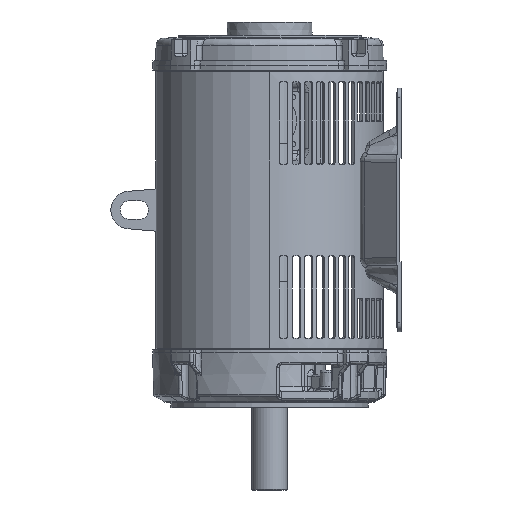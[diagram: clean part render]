
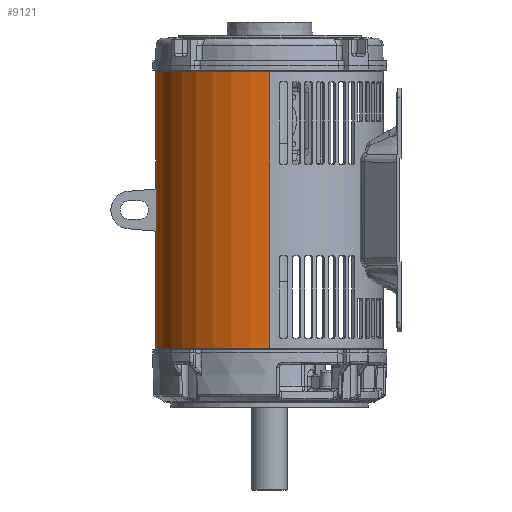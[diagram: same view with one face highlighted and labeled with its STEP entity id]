
A CAD part, left-side view. The second image highlights one B-rep face of the part: STEP entity #9121.
In plain terms, the highlighted cylindrical face has radius 153.805 mm (diameter 307.609 mm), a partial arc.
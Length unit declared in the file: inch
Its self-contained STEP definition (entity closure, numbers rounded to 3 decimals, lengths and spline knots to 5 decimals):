
#2386=CARTESIAN_POINT('',(0.,0.,7.34222));
#2387=DIRECTION('',(0.,0.,1.));
#2388=DIRECTION('',(1.,0.,0.));
#2389=AXIS2_PLACEMENT_3D('',#2386,#2387,#2388);
#2391=CARTESIAN_POINT('',(0.,0.,7.34222));
#2392=DIRECTION('',(0.,0.,1.));
#2393=DIRECTION('',(0.,1.,0.));
#2394=AXIS2_PLACEMENT_3D('',#2391,#2392,#2393);
#2396=CARTESIAN_POINT('',(-5.88146,1.44053,
-2.61528));
#2397=CARTESIAN_POINT('',(-5.89298,1.39349,
-2.62329));
#2398=CARTESIAN_POINT('',(-5.91483,1.2994,
-2.63957));
#2399=CARTESIAN_POINT('',(-5.94405,1.15835,
-2.66418));
#2400=CARTESIAN_POINT('',(-5.96984,1.01712,
-2.68844));
#2401=CARTESIAN_POINT('',(-5.99223,0.87557,
-2.71176));
#2402=CARTESIAN_POINT('',(-6.01128,0.73349,-2.73348));
#2403=CARTESIAN_POINT('',(-6.02702,0.59046,
-2.75293));
#2404=CARTESIAN_POINT('',(-6.03943,0.44608,
-2.76939));
#2405=CARTESIAN_POINT('',(-6.04847,0.2999,
-2.78205));
#2406=CARTESIAN_POINT('',(-6.05402,0.15158,
-2.79015));
#2407=CARTESIAN_POINT('',(-6.0553,0.0508,
-2.79206));
#2408=CARTESIAN_POINT('',(-6.0553,0.,
-2.79206));
#2410=CARTESIAN_POINT('',(-5.66307,2.1439,
-3.2495));
#2411=CARTESIAN_POINT('',(-5.66308,2.14389,
-3.20259));
#2412=CARTESIAN_POINT('',(-5.66654,2.13477,
-3.11092));
#2413=CARTESIAN_POINT('',(-5.68239,2.09243,
-2.97528));
#2414=CARTESIAN_POINT('',(-5.70699,2.02468,
-2.85532));
#2415=CARTESIAN_POINT('',(-5.73851,1.9339,
-2.75348));
#2416=CARTESIAN_POINT('',(-5.77427,1.82465,
-2.67565));
#2417=CARTESIAN_POINT('',(-5.81155,1.70252,
-2.62475));
#2418=CARTESIAN_POINT('',(-5.84856,1.57075,
-2.60276));
#2419=CARTESIAN_POINT('',(-5.87078,1.48415,
-2.60786));
#2420=CARTESIAN_POINT('',(-5.88146,1.44053,
-2.61528));
#2422=DIRECTION('',(0.,0.,1.));
#2423=VECTOR('',#2422,3.);
#2424=CARTESIAN_POINT('',(-5.66307,2.1439,
-6.2495));
#2425=LINE('',#2424,#2423);
#2426=CARTESIAN_POINT('',(-5.88146,1.44053,
-6.88372));
#2427=CARTESIAN_POINT('',(-5.87068,1.48454,
-6.8912));
#2428=CARTESIAN_POINT('',(-5.8483,1.5717,
-6.89619));
#2429=CARTESIAN_POINT('',(-5.81142,1.70294,
-6.87409));
#2430=CARTESIAN_POINT('',(-5.77418,1.82494,
-6.8232));
#2431=CARTESIAN_POINT('',(-5.73847,1.93401,
-6.74536));
#2432=CARTESIAN_POINT('',(-5.70707,2.02443,
-6.64402));
#2433=CARTESIAN_POINT('',(-5.68242,2.09233,
-6.5239));
#2434=CARTESIAN_POINT('',(-5.66662,2.13456,
-6.389));
#2435=CARTESIAN_POINT('',(-5.66308,2.1439,
-6.2968));
#2436=CARTESIAN_POINT('',(-5.66307,2.1439,
-6.2495));
#2438=CARTESIAN_POINT('',(-6.0553,0.,
-6.70694));
#2439=CARTESIAN_POINT('',(-6.0553,0.05085,
-6.70694));
#2440=CARTESIAN_POINT('',(-6.05402,0.15171,
-6.70885));
#2441=CARTESIAN_POINT('',(-6.04846,0.30008,
-6.71696));
#2442=CARTESIAN_POINT('',(-6.03942,0.44629,
-6.72963));
#2443=CARTESIAN_POINT('',(-6.027,0.59067,
-6.74609));
#2444=CARTESIAN_POINT('',(-6.01126,0.73367,
-6.76555));
#2445=CARTESIAN_POINT('',(-5.99221,0.87573,
-6.78727));
#2446=CARTESIAN_POINT('',(-5.96981,1.01727,
-6.81058));
#2447=CARTESIAN_POINT('',(-5.94403,1.15849,
-6.83484));
#2448=CARTESIAN_POINT('',(-5.9148,1.2995,
-6.85945));
#2449=CARTESIAN_POINT('',(-5.89297,1.39352,
-6.87572));
#2450=CARTESIAN_POINT('',(-5.88146,1.44053,
-6.88372));
#2452=CARTESIAN_POINT('',(0.,0.,-7.34322));
#2453=DIRECTION('',(0.,0.,1.));
#2454=DIRECTION('',(0.,1.,0.));
#2455=AXIS2_PLACEMENT_3D('',#2452,#2453,#2454);
#2457=CARTESIAN_POINT('',(0.,0.,-7.34322));
#2458=DIRECTION('',(0.,0.,1.));
#2459=DIRECTION('',(1.,0.,0.));
#2460=AXIS2_PLACEMENT_3D('',#2457,#2458,#2459);
#2462=DIRECTION('',(0.,0.,1.));
#2463=VECTOR('',#2462,14.68545);
#2464=CARTESIAN_POINT('',(6.0553,0.,-7.34322));
#2465=LINE('',#2464,#2463);
#2486=DIRECTION('',(0.,0.,1.));
#2487=VECTOR('',#2486,0.63628);
#2488=CARTESIAN_POINT('',(-6.0553,0.,-7.34322));
#2489=LINE('',#2488,#2487);
#2498=CARTESIAN_POINT('',(-6.0553,0.,
-6.70694));
#2538=DIRECTION('',(0.,0.,1.));
#2539=VECTOR('',#2538,10.13428);
#2540=CARTESIAN_POINT('',(-6.0553,0.,
-2.79206));
#2541=LINE('',#2540,#2539);
#6965=CARTESIAN_POINT('',(6.0553,0.,7.34222));
#6966=CARTESIAN_POINT('',(0.,6.0553,7.34222));
#6967=VERTEX_POINT('',#6965);
#6968=VERTEX_POINT('',#6966);
#6969=CARTESIAN_POINT('',(-6.0553,0.,7.34222));
#6970=VERTEX_POINT('',#6969);
#6975=CARTESIAN_POINT('',(6.0553,0.,-7.34322));
#6976=VERTEX_POINT('',#6975);
#6999=CARTESIAN_POINT('',(0.,6.0553,-7.34322));
#7000=VERTEX_POINT('',#6999);
#7001=CARTESIAN_POINT('',(-6.0553,0.,-7.34322));
#7002=VERTEX_POINT('',#7001);
#7041=CARTESIAN_POINT('',(-5.66307,2.1439,
-6.2495));
#7042=CARTESIAN_POINT('',(-5.66307,2.1439,
-3.2495));
#7043=VERTEX_POINT('',#7041);
#7044=VERTEX_POINT('',#7042);
#7046=VERTEX_POINT('',#2420);
#7048=VERTEX_POINT('',#2408);
#7060=VERTEX_POINT('',#2498);
#7062=VERTEX_POINT('',#2450);
#9091=CARTESIAN_POINT('',(0.,0.,-7.6875));
#9092=DIRECTION('',(0.,0.,1.));
#9093=DIRECTION('',(1.,0.,0.));
#9094=AXIS2_PLACEMENT_3D('',#9091,#9092,#9093);
#9095=CYLINDRICAL_SURFACE('',#9094,6.0553);
#9097=ORIENTED_EDGE('',*,*,#9096,.T.);
#9098=ORIENTED_EDGE('',*,*,#9079,.T.);
#9100=ORIENTED_EDGE('',*,*,#9099,.F.);
#9102=ORIENTED_EDGE('',*,*,#9101,.F.);
#9104=ORIENTED_EDGE('',*,*,#9103,.F.);
#9106=ORIENTED_EDGE('',*,*,#9105,.F.);
#9108=ORIENTED_EDGE('',*,*,#9107,.F.);
#9110=ORIENTED_EDGE('',*,*,#9109,.F.);
#9112=ORIENTED_EDGE('',*,*,#9111,.F.);
#9114=ORIENTED_EDGE('',*,*,#9113,.F.);
#9116=ORIENTED_EDGE('',*,*,#9115,.F.);
#9118=ORIENTED_EDGE('',*,*,#9117,.T.);
#9119=EDGE_LOOP('',(#9097,#9098,#9100,#9102,#9104,#9106,#9108,#9110,#9112,#9114,
#9116,#9118));
#9120=FACE_OUTER_BOUND('',#9119,.F.);
#9121=ADVANCED_FACE('',(#9120),#9095,.T.);
#2390=CIRCLE('',#2389,6.0553);
#2395=CIRCLE('',#2394,6.0553);
#2409=B_SPLINE_CURVE_WITH_KNOTS('',3,(#2396,#2397,#2398,#2399,#2400,#2401,#2402,
#2403,#2404,#2405,#2406,#2407,#2408),.UNSPECIFIED.,.F.,.F.,(4,1,1,1,1,1,1,1,1,1,
4),(0.,0.1,0.2,0.3,0.4,0.5,0.6,0.7,0.8,0.9,1.),
.UNSPECIFIED.);
#2421=B_SPLINE_CURVE_WITH_KNOTS('',3,(#2410,#2411,#2412,#2413,#2414,#2415,#2416,
#2417,#2418,#2419,#2420),.UNSPECIFIED.,.F.,.F.,(4,1,1,1,1,1,1,1,4),(0.,
0.125,0.25,0.375,0.5,0.625,0.75,0.875,1.),.UNSPECIFIED.);
#2437=B_SPLINE_CURVE_WITH_KNOTS('',3,(#2426,#2427,#2428,#2429,#2430,#2431,#2432,
#2433,#2434,#2435,#2436),.UNSPECIFIED.,.F.,.F.,(4,1,1,1,1,1,1,1,4),(0.,
0.125,0.25,0.375,0.5,0.625,0.75,0.875,1.),.UNSPECIFIED.);
#2451=B_SPLINE_CURVE_WITH_KNOTS('',3,(#2438,#2439,#2440,#2441,#2442,#2443,#2444,
#2445,#2446,#2447,#2448,#2449,#2450),.UNSPECIFIED.,.F.,.F.,(4,1,1,1,1,1,1,1,1,1,
4),(0.,0.1,0.2,0.3,0.4,0.5,0.6,0.7,0.8,0.9,1.),
.UNSPECIFIED.);
#2456=CIRCLE('',#2455,6.0553);
#2461=CIRCLE('',#2460,6.0553);
#9079=EDGE_CURVE('',#6968,#6970,#2395,.T.);
#9096=EDGE_CURVE('',#6967,#6968,#2390,.T.);
#9099=EDGE_CURVE('',#7048,#6970,#2541,.T.);
#9101=EDGE_CURVE('',#7046,#7048,#2409,.T.);
#9103=EDGE_CURVE('',#7044,#7046,#2421,.T.);
#9105=EDGE_CURVE('',#7043,#7044,#2425,.T.);
#9107=EDGE_CURVE('',#7062,#7043,#2437,.T.);
#9109=EDGE_CURVE('',#7060,#7062,#2451,.T.);
#9111=EDGE_CURVE('',#7002,#7060,#2489,.T.);
#9113=EDGE_CURVE('',#7000,#7002,#2456,.T.);
#9115=EDGE_CURVE('',#6976,#7000,#2461,.T.);
#9117=EDGE_CURVE('',#6976,#6967,#2465,.T.);
